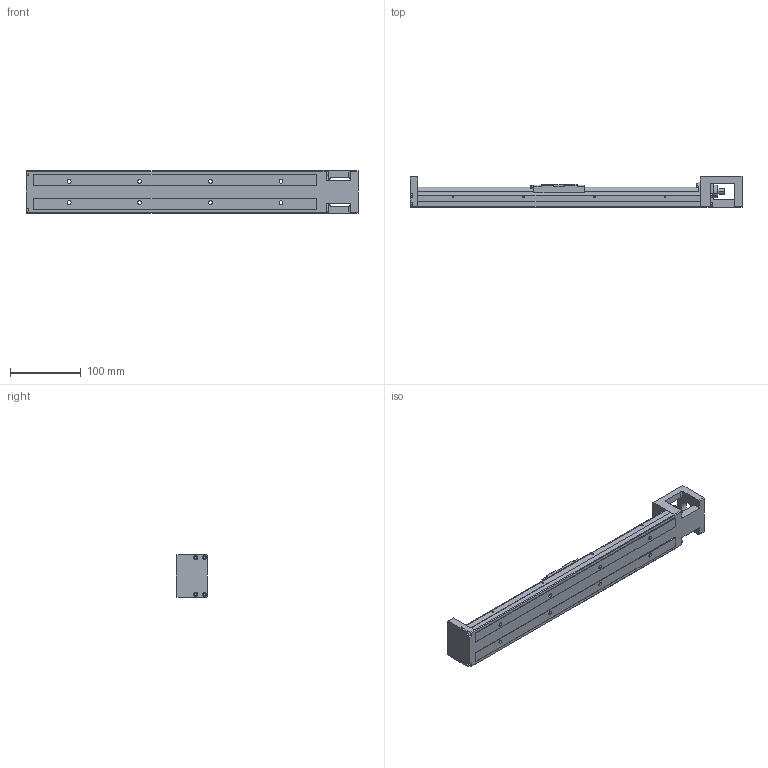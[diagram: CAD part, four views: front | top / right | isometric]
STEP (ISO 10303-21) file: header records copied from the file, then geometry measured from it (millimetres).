
FILE_DESCRIPTION (( 'STEP AP203' ), '1' );
FILE_NAME ('HKK60D10C400A1F0.stp', '2021-11-25T02:15:31', ( '' ), ( '' ), 'SwSTEP 2.0', 'SolidWorks 2018', '' );
FILE_SCHEMA (( 'CONFIG_CONTROL_DESIGN' ));
Length unit declared in the file: millimetre
Products named in the file (1): HKK60D10C400A1F0
Bounding box: 470 x 44.5 x 60 mm (x, y, z)
Volume: 485819.4 mm3; surface area: 135570.7 mm2
Topology: 2 solids, 2 shells, 551 faces, 1458 edges, 935 vertices
Faces by surface type: plane 316, cylinder 183, cone 42, torus 8, sphere 2
Entity records: 17107 total; most frequent: CARTESIAN_POINT 3253, DIRECTION 2862, ORIENTED_EDGE 2832, EDGE_CURVE 1416, VECTOR 990, LINE 990, AXIS2_PLACEMENT_3D 936, VERTEX_POINT 935
